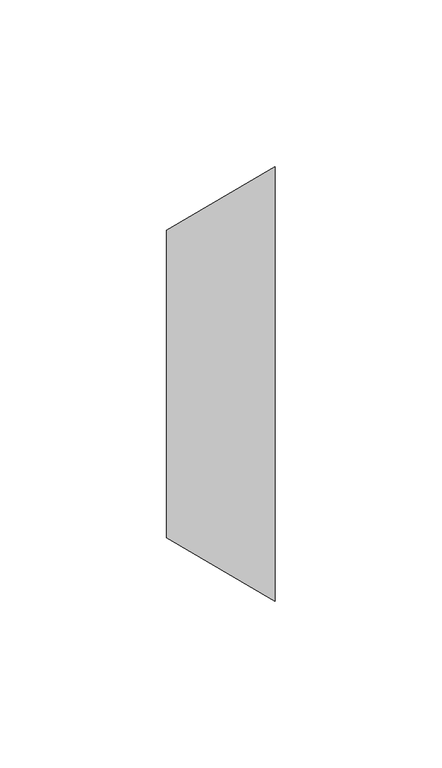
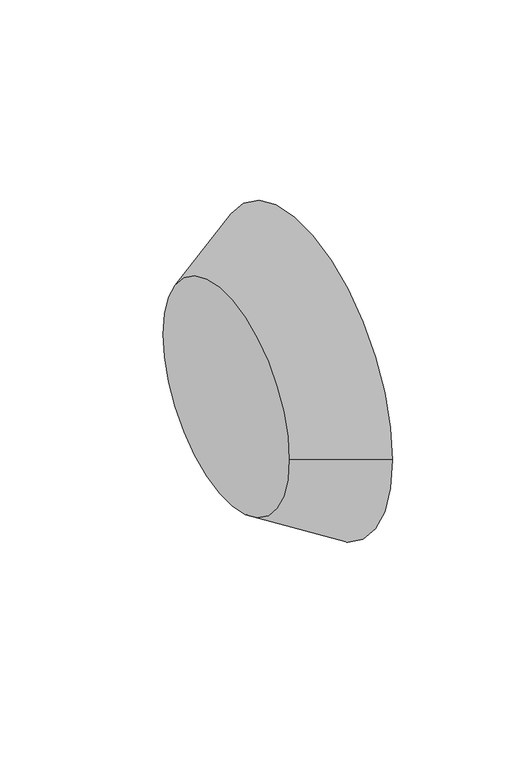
"""IFC4 building model written with IfcOpenShell, lengths in millimetres: pipe fitting geometry, M_Transición - Genérica : Estándar."""

from ifc_helpers import new_model, si_unit, frame, origin, place, context, project, spatial, polyline, circle_curve, source, transform, mapped, element, save
from ifc_brep_helpers import plane_surface, revolved_surface, advanced_brep


def pipe_fitting_e4fb672d(model_context):
    return source(origin(), model_context, "Body", "AdvancedBrep", [
        advanced_brep(
        [(32.54375, -65.0875, 0.0), (32.54375, 65.0875, 0.0), (0.0, -46.0375, 0.0), (0.0, 46.0375, 0.0)],
        [
            (0, 1, circle_curve(frame((32.54375, 0.0, 0.0), z_axis=(1.0, 0.0, 0.0), x_axis=(0.0, -1.0, 0.0)), 65.0875)),
            (1, 0, circle_curve(frame((32.54375, 0.0, 0.0), z_axis=(1.0, 0.0, 0.0), x_axis=(0.0, 1.0, 0.0)), 65.0875)),
            (2, 3, circle_curve(frame((0.0, 0.0, 0.0), z_axis=(-1.0, 0.0, 0.0), x_axis=(0.0, 1.0, 0.0)), 46.0375)),
            (3, 2, circle_curve(frame((0.0, 0.0, 0.0), z_axis=(-1.0, 0.0, 0.0), x_axis=(0.0, -1.0, 0.0)), 46.0375)),
            (3, 1),
            (0, 2),
        ],
        [
            plane_surface(frame((32.54375, 0.0, 0.0), z_axis=(1.0, 0.0, 0.0), x_axis=(0.0, 0.0, -1.0))),
            plane_surface(frame((0.0, 0.0, 0.0), z_axis=(-1.0, 0.0, 0.0), x_axis=(0.0, 0.0, -1.0))),
            revolved_surface(polyline([(0.0, 46.037499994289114, 0.0), (32.54375, 65.0875, 0.0)]), (-78.6473958, 0.0, 0.0), (1.0, 0.0, 0.0)),
            revolved_surface(polyline([(0.0, -46.037499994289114, 0.0), (32.54375, -65.0875, 0.0)]), (-78.6473958, 0.0, 0.0), (1.0, 0.0, 0.0)),
        ],
        [
            (0, [[1, 2]]),
            (1, [[3, 4]]),
            (2, [[-4, 5, -1, 6]]),
            (3, [[-3, -6, -2, -5]]),
        ],
    ),
    ])


if __name__ == "__main__":
    model = new_model("IFC4")
    model_context = context("Model", 3, world=origin())
    ifc_project = project(units=[si_unit("LENGTHUNIT", "METRE", prefix="MILLI")], contexts=[model_context])
    site = spatial("IfcSite", under=ifc_project)
    building = spatial("IfcBuilding", under=site)
    placement = place(None, origin())
    pipe_fitting_shape = pipe_fitting_e4fb672d(model_context)
    element("IfcPipeFitting", 1, ObjectType="M_Transición - Genérica : Estándar", at=placement, inside=building, context=model_context, shape_type="MappedRepresentation", body=[
        mapped(pipe_fitting_shape, transform((0.0, 0.0, 0.0), x_axis=(1.0, 0.0, 0.0), y_axis=(0.0, 1.0, 0.0), z_axis=(0.0, 0.0, 1.0))),
    ])
    save(model, "model.ifc")
